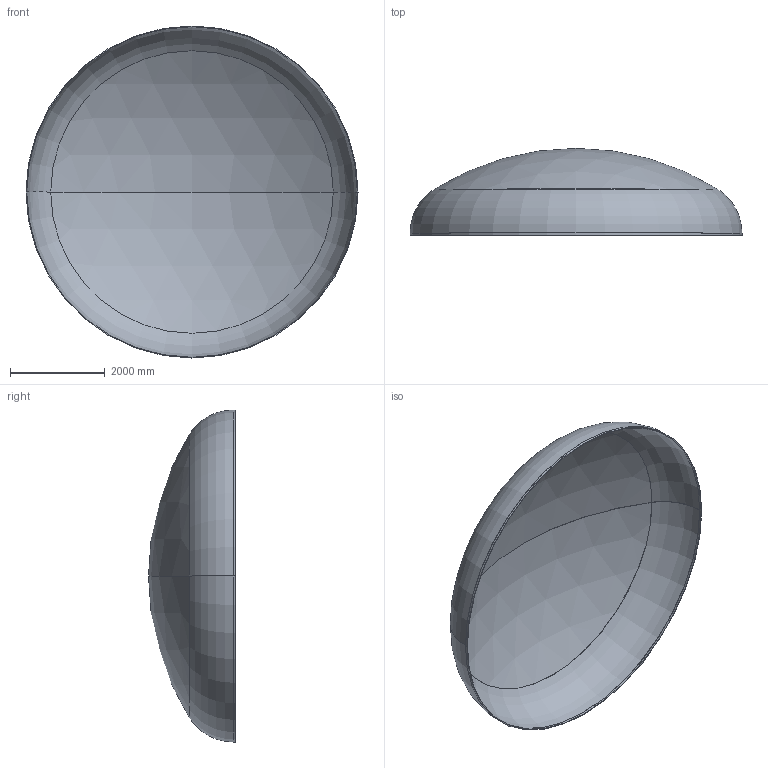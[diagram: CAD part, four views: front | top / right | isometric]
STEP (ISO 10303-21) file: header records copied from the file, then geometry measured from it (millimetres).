
FILE_DESCRIPTION (( 'STEP AP203' ), '1' );
FILE_NAME ('DIN 28013 Korbbogenform_-_Boden DIN 28013 - 7000 x 45 - I - s=15.step', '2016-07-04T10:45:22', ( '' ), ( '' ), 'SwSTEP 2.0', 'SolidWorks 2013', '' );
FILE_SCHEMA (( 'CONFIG_CONTROL_DESIGN' ));
Length unit declared in the file: millimetre
Products named in the file (1): DIN 28013 Korbbogenform_-_Boden DIN 28013 - 7000 x 45 - I - s=15
Bounding box: 7000 x 1832.94 x 7000 mm (x, y, z)
Volume: 812415234.7 mm3; surface area: 108651618.3 mm2
Topology: 1 solids, 1 shells, 13 faces, 24 edges, 14 vertices
Faces by surface type: torus 4, cylinder 4, sphere 4, plane 1
Entity records: 407 total; most frequent: DIRECTION 72, CARTESIAN_POINT 52, ORIENTED_EDGE 48, AXIS2_PLACEMENT_3D 34, EDGE_CURVE 24, CIRCLE 20, VERTEX_POINT 14, EDGE_LOOP 14
